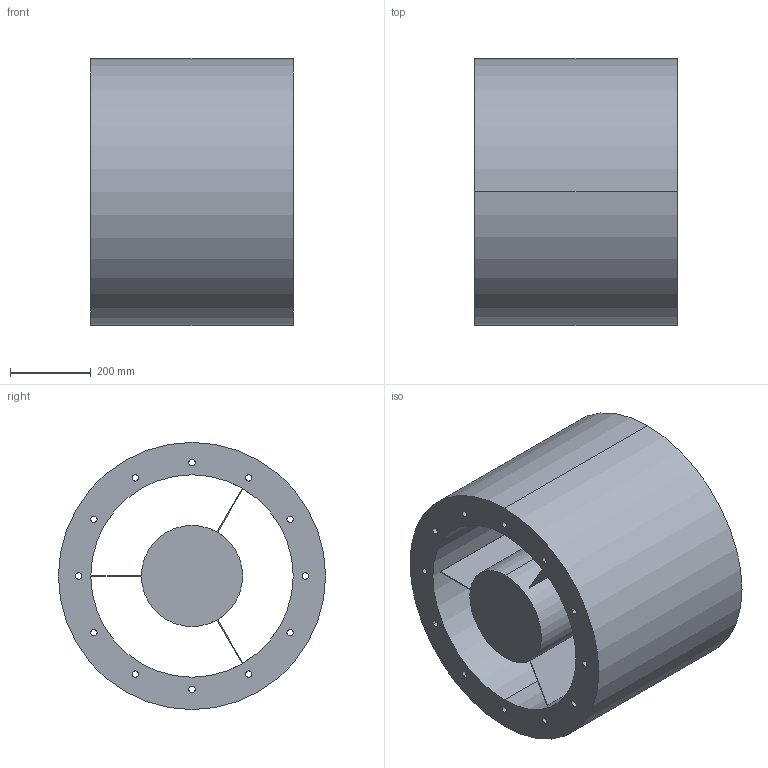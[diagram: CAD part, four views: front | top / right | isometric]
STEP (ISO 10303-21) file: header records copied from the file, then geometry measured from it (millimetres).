
FILE_DESCRIPTION(('STEP AP214'),'1');
FILE_NAME('accessory_5211813900.stp','2017-10-09T11:37:34',('TraceParts'),('TraceParts S.A.'),'Spatial InterOp 3D',' ',' ');
FILE_SCHEMA(('automotive_design'));
Length unit declared in the file: millimetre
Products named in the file (1): accessory_5211813900
Bounding box: 500 x 660 x 660 mm (x, y, z)
Volume: 93071772.8 mm3; surface area: 3071991.2 mm2
Topology: 1 solids, 1 shells, 48 faces, 131 edges, 87 vertices
Faces by surface type: cylinder 30, plane 16, torus 2
Entity records: 2024 total; most frequent: DIRECTION 306, CARTESIAN_POINT 267, ORIENTED_EDGE 262, EDGE_CURVE 131, AXIS2_PLACEMENT_3D 126, VERTEX_POINT 87, EDGE_LOOP 80, CIRCLE 77
